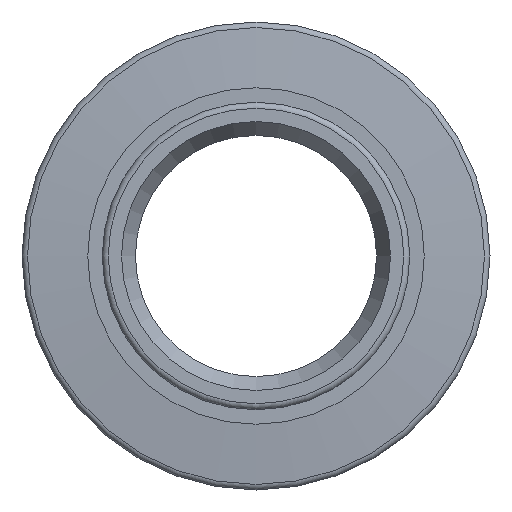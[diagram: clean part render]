
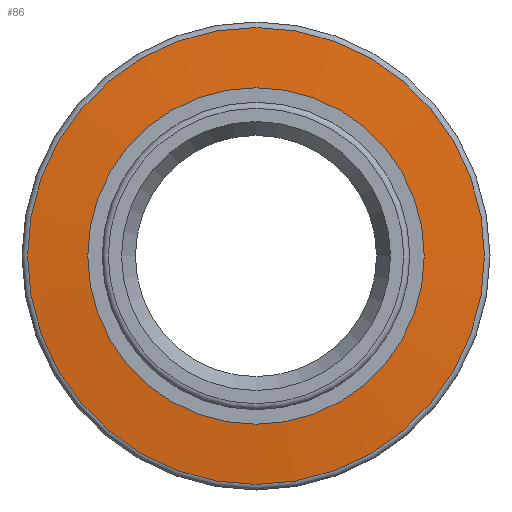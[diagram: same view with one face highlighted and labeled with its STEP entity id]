
A CAD part, front view. The second image highlights one B-rep face of the part: STEP entity #86.
In plain terms, the highlighted conical face has half-angle 85 degrees and reference radius 16.003 mm.
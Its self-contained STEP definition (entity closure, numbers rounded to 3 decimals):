
#86=ADVANCED_FACE('',(#515,#517),#519,.T.);
#515=FACE_OUTER_BOUND('',#516,.T.);
#516=EDGE_LOOP('',(#1055));
#517=FACE_BOUND('',#518,.T.);
#518=EDGE_LOOP('',(#1056,#1057));
#519=CONICAL_SURFACE('',#520,16.003,1.484);
#520=AXIS2_PLACEMENT_3D('',#521,#522,#523);
#521=CARTESIAN_POINT('',(0.,-48.797,0.));
#522=DIRECTION('',(0.,1.,0.));
#523=DIRECTION('',(0.,0.,-1.));
#1055=ORIENTED_EDGE('',*,*,#1243,.F.);
#1056=ORIENTED_EDGE('',*,*,#1244,.T.);
#1057=ORIENTED_EDGE('',*,*,#1245,.T.);
#1243=EDGE_CURVE('',#1420,#1420,#1421,.T.);
#1244=EDGE_CURVE('',#1422,#1423,#1424,.T.);
#1245=EDGE_CURVE('',#1423,#1422,#1425,.T.);
#1420=VERTEX_POINT('',#1853);
#1421=CIRCLE('',#1854,18.944);
#1422=VERTEX_POINT('',#1858);
#1423=VERTEX_POINT('',#1859);
#1424=CIRCLE('',#1860,13.063);
#1425=CIRCLE('',#1864,13.063);
#1853=CARTESIAN_POINT('',(0.,-48.54,-18.944));
#1854=AXIS2_PLACEMENT_3D('',#1855,#1856,#1857);
#1855=CARTESIAN_POINT('',(0.,-48.54,0.));
#1856=DIRECTION('',(0.,1.,0.));
#1857=DIRECTION('',(0.,0.,-1.));
#1858=CARTESIAN_POINT('',(0.,-49.054,-13.063));
#1859=CARTESIAN_POINT('',(-13.063,-49.054,0.));
#1860=AXIS2_PLACEMENT_3D('',#1861,#1862,#1863);
#1861=CARTESIAN_POINT('',(0.,-49.054,0.));
#1862=DIRECTION('',(0.,1.,0.));
#1863=DIRECTION('',(0.,0.,-1.));
#1864=AXIS2_PLACEMENT_3D('',#1865,#1866,#1867);
#1865=CARTESIAN_POINT('',(0.,-49.054,0.));
#1866=DIRECTION('',(0.,1.,0.));
#1867=DIRECTION('',(-1.,0.,0.));
